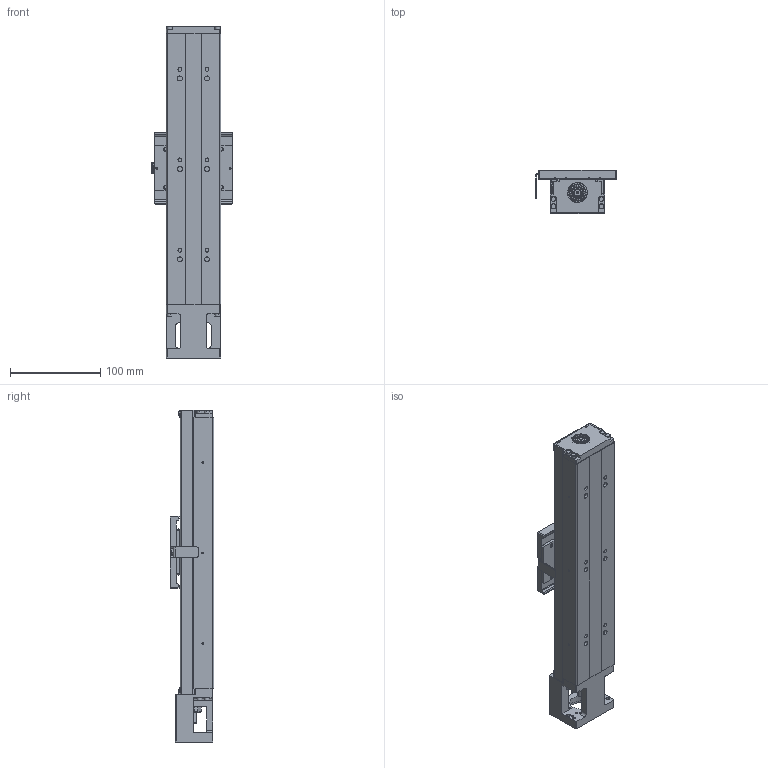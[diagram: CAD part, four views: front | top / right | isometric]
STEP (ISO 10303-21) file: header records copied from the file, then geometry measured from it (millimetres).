
FILE_DESCRIPTION (( 'STEP AP203' ), '1' );
FILE_NAME ('GKAC3360-200-12N-P10-CXXXX-網站用圖.STEP', '2023-04-14T07:31:15', ( '' ), ( '' ), 'SwSTEP 2.0', 'SolidWorks 2019', '' );
FILE_SCHEMA (( 'CONFIG_CONTROL_DESIGN' ));
Products named in the file (3): GKAC3360-200-12N-P10-CXXXX-網站用圖; Group3^GKAC3360-200-12N-P10-CXXXX_defeature-網站用圖_GMT; Group4^GKAC3360-200-12N-P10-CXXXX_defeature-網站用圖_GMT
Assembly tree (2 placements, depth 2):
  GKAC3360-200-12N-P10-CXXXX-網站用圖
    Group3^GKAC3360-200-12N-P10-CXXXX_defeature-網站用圖_GMT
    Group4^GKAC3360-200-12N-P10-CXXXX_defeature-網站用圖_GMT
Bounding box: 89.2 x 48 x 367 mm (x, y, z)
Volume: 486345.1 mm3; surface area: 212888.3 mm2
Topology: 31 solids, 39 shells, 2772 faces, 7198 edges, 4513 vertices
Faces by surface type: plane 1147, cylinder 835, cone 353, torus 236, bspline 137, sphere 64
Entity records: 95963 total; most frequent: CARTESIAN_POINT 28299, DIRECTION 14225, ORIENTED_EDGE 14194, EDGE_CURVE 7097, AXIS2_PLACEMENT_3D 5397, VERTEX_POINT 4494, VECTOR 3431, LINE 3431
